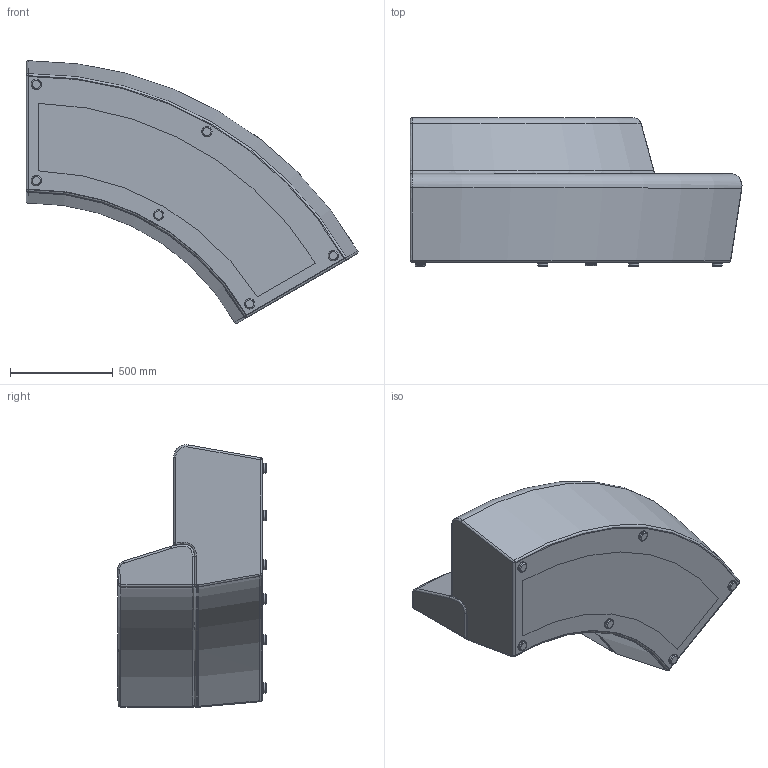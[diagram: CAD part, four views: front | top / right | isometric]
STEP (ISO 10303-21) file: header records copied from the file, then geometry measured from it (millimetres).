
FILE_DESCRIPTION(/* description */ (''),/* implementation_level */ '2;1');
FILE_NAME(/* name */ 'Opoho 60 Convex Seater.step',/* time_stamp */ '2025-06-12T13:57:56+12:00',/* author */ (''),/* organization */ (''),/* preprocessor_version */ 'ST-DEVELOPER v20.1',/* originating_system */ 'Autodesk Translation Framework v14.10.0.0',/* authorisation */ '');
FILE_SCHEMA (('AUTOMOTIVE_DESIGN { 1 0 10303 214 3 1 1 }'));
Length unit declared in the file: millimetre
Products named in the file (32): Opoho 60 Convex Seater; Frame; Seat; Seat battens; Seat Battens Rear Group; Seat Battens Rear Section; Seat Battens Rear (1); Seat Battens Front Group; Seat Battens Front Section; Seat Battens Front (1); Seat Sections; Seat Sections (1); Seat Section Ends; Seat Horizontal Bracing (1); Seat Horizontal Bracing; Base; Back; Horizontal Bracing (1); Back Horizontal Bracing top; Back Horizontal Bracing Base; Battons (1); Back Battens (1); Back Battons; Sections (1); Back Sections; MDF; MDF Seat Back; MDF Seat Front; MDF Back Front bottom; MDF Back Front Top; MDF Back Back; Upholstery and feet
Assembly tree (47 placements, depth 7):
  Opoho 60 Convex Seater
    Frame
      Seat
        Seat battens
          Seat Battens Rear Group
            Seat Battens Rear Section  x3
              Seat Battens Rear (1)
          Seat Battens Front Group
            Seat Battens Front Section  x3
              Seat Battens Front (1)
        Seat Sections
          Seat Sections (1)  x2
          Seat Section Ends  x2
        Seat Horizontal Bracing (1)
          Seat Horizontal Bracing
          Base
      Back
        Horizontal Bracing (1)
          Back Horizontal Bracing top
          Back Horizontal Bracing Base
        Battons (1)
          Back Battens (1)  x3
            Back Battons
        Sections (1)
          Back Sections  x5
    MDF
      MDF Seat Back
      MDF Seat Front
      MDF Back Front bottom
      MDF Back Front Top
      MDF Back Back
    Upholstery and feet
Bounding box: 1615.62 x 722.01 x 1277.48 mm (x, y, z)
Volume: 547921643.6 mm3; surface area: 14467156 mm2
Topology: 47 solids, 47 shells, 411 faces, 865 edges, 546 vertices
Faces by surface type: plane 275, cylinder 47, bspline 29, torus 24, cone 18, sphere 18
Full cylindrical faces by diameter (mm): 50 x6
Entity records: 8599 total; most frequent: CARTESIAN_POINT 2543, DIRECTION 1235, ORIENTED_EDGE 1012, EDGE_CURVE 506, AXIS2_PLACEMENT_3D 496, VERTEX_POINT 308, EDGE_LOOP 248, FACE_OUTER_BOUND 244
